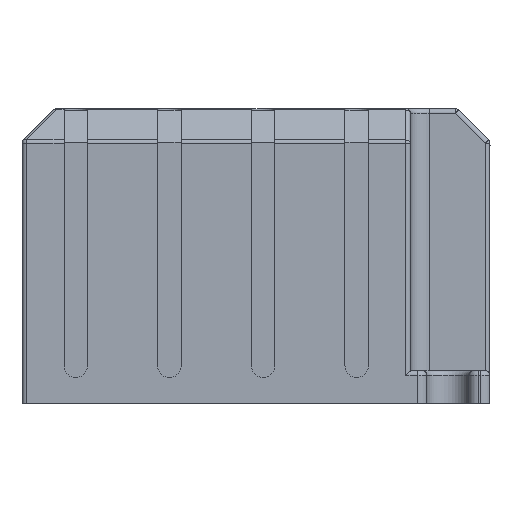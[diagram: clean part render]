
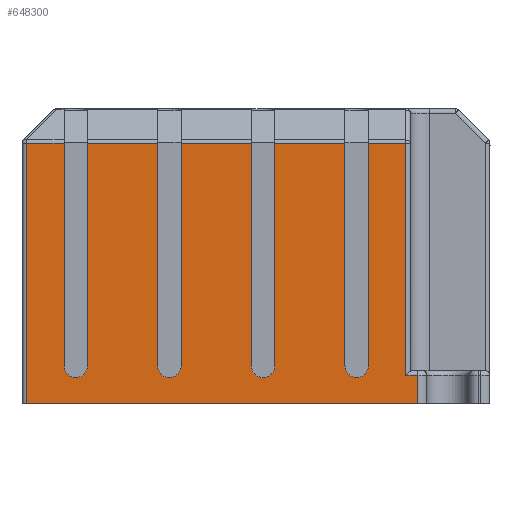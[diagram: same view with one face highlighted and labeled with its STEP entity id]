
A CAD part, left-side view. The second image highlights one B-rep face of the part: STEP entity #648300.
In plain terms, the highlighted planar face has unit normal (-1, 0, 0) as drawn and (1, 0, 0) by its records, which use the part's own axes.
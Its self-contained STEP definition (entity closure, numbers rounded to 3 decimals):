
#620640=CARTESIAN_POINT('',(93.694,99.507,-5.7));
#620650=VERTEX_POINT('',#620640);
#620680=CARTESIAN_POINT('',(93.694,99.507,0.));
#620690=DIRECTION('',(0.,0.,-1.));
#620700=VECTOR('',#620690,1.);
#620710=LINE('',#620680,#620700);
#620720=CARTESIAN_POINT('',(93.694,99.507,-2.7));
#620730=VERTEX_POINT('',#620720);
#620740=EDGE_CURVE('',#620730,#620650,#620710,.T.);
#622270=CARTESIAN_POINT('',(93.694,57.757,-5.7));
#622280=VERTEX_POINT('',#622270);
#622440=CARTESIAN_POINT('',(93.694,57.757,22.093));
#622450=VERTEX_POINT('',#622440);
#622480=CARTESIAN_POINT('',(93.694,57.757,0.));
#622490=DIRECTION('',(0.,0.,-1.));
#622500=VECTOR('',#622490,1.);
#622510=LINE('',#622480,#622500);
#622520=EDGE_CURVE('',#622450,#622280,#622510,.T.);
#631990=CARTESIAN_POINT('',(93.694,61.757,22.093));
#632000=VERTEX_POINT('',#631990);
#632030=CARTESIAN_POINT('',(93.694,0.,22.093));
#632040=DIRECTION('',(0.,1.,0.));
#632050=VECTOR('',#632040,1.);
#632060=LINE('',#632030,#632050);
#632070=EDGE_CURVE('',#622450,#632000,#632060,.T.);
#635520=CARTESIAN_POINT('',(93.694,98.257,22.093));
#635530=VERTEX_POINT('',#635520);
#641830=CARTESIAN_POINT('',(93.694,98.257,-2.7));
#641840=VERTEX_POINT('',#641830);
#641870=CARTESIAN_POINT('',(93.694,98.257,0.));
#641880=DIRECTION('',(0.,0.,1.));
#641890=VECTOR('',#641880,1.);
#641900=LINE('',#641870,#641890);
#641910=EDGE_CURVE('',#641840,#635530,#641900,.T.);
#643010=CARTESIAN_POINT('',(93.694,0.,-2.7));
#643020=DIRECTION('',(0.,-1.,0.));
#643030=VECTOR('',#643020,1.);
#643040=LINE('',#643010,#643030);
#643050=EDGE_CURVE('',#620730,#641840,#643040,.T.);
#646980=CARTESIAN_POINT('',(93.694,105.082,20.098));
#646990=DIRECTION('',(1.,0.,0.));
#647000=DIRECTION('',(0.,1.,0.));
#647010=AXIS2_PLACEMENT_3D('',#646980,#646990,#647000);
#647020=PLANE('',#647010);
#647030=ORIENTED_EDGE('',*,*,#620740,.F.);
#647040=CARTESIAN_POINT('',(93.694,106.257,-5.7));
#647050=DIRECTION('',(0.,-1.,0.));
#647060=VECTOR('',#647050,1.);
#647070=LINE('',#647040,#647060);
#647080=EDGE_CURVE('',#620650,#622280,#647070,.T.);
#647090=ORIENTED_EDGE('',*,*,#647080,.F.);
#647100=ORIENTED_EDGE('',*,*,#622520,.T.);
#647110=ORIENTED_EDGE('',*,*,#632070,.F.);
#647120=CARTESIAN_POINT('',(93.694,61.757,0.));
#647130=DIRECTION('',(0.,0.,-1.));
#647140=VECTOR('',#647130,1.);
#647150=LINE('',#647120,#647140);
#647160=CARTESIAN_POINT('',(93.694,61.757,-1.7));
#647170=VERTEX_POINT('',#647160);
#647180=EDGE_CURVE('',#632000,#647170,#647150,.T.);
#647190=ORIENTED_EDGE('',*,*,#647180,.F.);
#647200=CARTESIAN_POINT('',(93.694,63.007,-1.7));
#647210=DIRECTION('',(1.,0.,0.));
#647220=DIRECTION('',(0.,1.,0.));
#647230=AXIS2_PLACEMENT_3D('',#647200,#647210,#647220);
#647240=CIRCLE('',#647230,1.25);
#647250=CARTESIAN_POINT('',(93.694,64.257,-1.7));
#647260=VERTEX_POINT('',#647250);
#647270=EDGE_CURVE('',#647170,#647260,#647240,.T.);
#647280=ORIENTED_EDGE('',*,*,#647270,.F.);
#647290=CARTESIAN_POINT('',(93.694,64.257,0.));
#647300=DIRECTION('',(0.,0.,1.));
#647310=VECTOR('',#647300,1.);
#647320=LINE('',#647290,#647310);
#647330=CARTESIAN_POINT('',(93.694,64.257,22.093));
#647340=VERTEX_POINT('',#647330);
#647350=EDGE_CURVE('',#647260,#647340,#647320,.T.);
#647360=ORIENTED_EDGE('',*,*,#647350,.F.);
#647370=CARTESIAN_POINT('',(93.694,71.757,22.093));
#647380=VERTEX_POINT('',#647370);
#647390=EDGE_CURVE('',#647340,#647380,#632060,.T.);
#647400=ORIENTED_EDGE('',*,*,#647390,.F.);
#647410=CARTESIAN_POINT('',(93.694,71.757,0.));
#647420=DIRECTION('',(0.,0.,-1.));
#647430=VECTOR('',#647420,1.);
#647440=LINE('',#647410,#647430);
#647450=CARTESIAN_POINT('',(93.694,71.757,-1.7));
#647460=VERTEX_POINT('',#647450);
#647470=EDGE_CURVE('',#647380,#647460,#647440,.T.);
#647480=ORIENTED_EDGE('',*,*,#647470,.F.);
#647490=CARTESIAN_POINT('',(93.694,73.007,-1.7));
#647500=DIRECTION('',(1.,0.,0.));
#647510=DIRECTION('',(0.,1.,0.));
#647520=AXIS2_PLACEMENT_3D('',#647490,#647500,#647510);
#647530=CIRCLE('',#647520,1.25);
#647540=CARTESIAN_POINT('',(93.694,74.257,-1.7));
#647550=VERTEX_POINT('',#647540);
#647560=EDGE_CURVE('',#647460,#647550,#647530,.T.);
#647570=ORIENTED_EDGE('',*,*,#647560,.F.);
#647580=CARTESIAN_POINT('',(93.694,74.257,0.));
#647590=DIRECTION('',(0.,0.,1.));
#647600=VECTOR('',#647590,1.);
#647610=LINE('',#647580,#647600);
#647620=CARTESIAN_POINT('',(93.694,74.257,22.093));
#647630=VERTEX_POINT('',#647620);
#647640=EDGE_CURVE('',#647550,#647630,#647610,.T.);
#647650=ORIENTED_EDGE('',*,*,#647640,.F.);
#647660=CARTESIAN_POINT('',(93.694,81.757,22.093));
#647670=VERTEX_POINT('',#647660);
#647680=EDGE_CURVE('',#647630,#647670,#632060,.T.);
#647690=ORIENTED_EDGE('',*,*,#647680,.F.);
#647700=CARTESIAN_POINT('',(93.694,81.757,0.));
#647710=DIRECTION('',(0.,0.,-1.));
#647720=VECTOR('',#647710,1.);
#647730=LINE('',#647700,#647720);
#647740=CARTESIAN_POINT('',(93.694,81.757,-1.7));
#647750=VERTEX_POINT('',#647740);
#647760=EDGE_CURVE('',#647670,#647750,#647730,.T.);
#647770=ORIENTED_EDGE('',*,*,#647760,.F.);
#647780=CARTESIAN_POINT('',(93.694,83.007,-1.7));
#647790=DIRECTION('',(1.,0.,0.));
#647800=DIRECTION('',(0.,1.,0.));
#647810=AXIS2_PLACEMENT_3D('',#647780,#647790,#647800);
#647820=CIRCLE('',#647810,1.25);
#647830=CARTESIAN_POINT('',(93.694,84.257,-1.7));
#647840=VERTEX_POINT('',#647830);
#647850=EDGE_CURVE('',#647750,#647840,#647820,.T.);
#647860=ORIENTED_EDGE('',*,*,#647850,.F.);
#647870=CARTESIAN_POINT('',(93.694,84.257,0.));
#647880=DIRECTION('',(0.,0.,1.));
#647890=VECTOR('',#647880,1.);
#647900=LINE('',#647870,#647890);
#647910=CARTESIAN_POINT('',(93.694,84.257,22.093));
#647920=VERTEX_POINT('',#647910);
#647930=EDGE_CURVE('',#647840,#647920,#647900,.T.);
#647940=ORIENTED_EDGE('',*,*,#647930,.F.);
#647950=CARTESIAN_POINT('',(93.694,91.757,22.093));
#647960=VERTEX_POINT('',#647950);
#647970=EDGE_CURVE('',#647920,#647960,#632060,.T.);
#647980=ORIENTED_EDGE('',*,*,#647970,.F.);
#647990=CARTESIAN_POINT('',(93.694,91.757,0.));
#648000=DIRECTION('',(0.,0.,-1.));
#648010=VECTOR('',#648000,1.);
#648020=LINE('',#647990,#648010);
#648030=CARTESIAN_POINT('',(93.694,91.757,-1.7));
#648040=VERTEX_POINT('',#648030);
#648050=EDGE_CURVE('',#647960,#648040,#648020,.T.);
#648060=ORIENTED_EDGE('',*,*,#648050,.F.);
#648070=CARTESIAN_POINT('',(93.694,93.007,-1.7));
#648080=DIRECTION('',(1.,0.,0.));
#648090=DIRECTION('',(0.,1.,0.));
#648100=AXIS2_PLACEMENT_3D('',#648070,#648080,#648090);
#648110=CIRCLE('',#648100,1.25);
#648120=CARTESIAN_POINT('',(93.694,94.257,-1.7));
#648130=VERTEX_POINT('',#648120);
#648140=EDGE_CURVE('',#648040,#648130,#648110,.T.);
#648150=ORIENTED_EDGE('',*,*,#648140,.F.);
#648160=CARTESIAN_POINT('',(93.694,94.257,0.));
#648170=DIRECTION('',(0.,0.,1.));
#648180=VECTOR('',#648170,1.);
#648190=LINE('',#648160,#648180);
#648200=CARTESIAN_POINT('',(93.694,94.257,22.093));
#648210=VERTEX_POINT('',#648200);
#648220=EDGE_CURVE('',#648130,#648210,#648190,.T.);
#648230=ORIENTED_EDGE('',*,*,#648220,.F.);
#648240=EDGE_CURVE('',#648210,#635530,#632060,.T.);
#648250=ORIENTED_EDGE('',*,*,#648240,.F.);
#648260=ORIENTED_EDGE('',*,*,#641910,.T.);
#648270=ORIENTED_EDGE('',*,*,#643050,.T.);
#648280=EDGE_LOOP('',(#648270,#648260,#648250,#648230,#648150,#648060,
#647980,#647940,#647860,#647770,#647690,#647650,#647570,#647480,#647400,
#647360,#647280,#647190,#647110,#647100,#647090,#647030));
#648290=FACE_OUTER_BOUND('',#648280,.T.);
#648300=ADVANCED_FACE('',(#648290),#647020,.T.);
